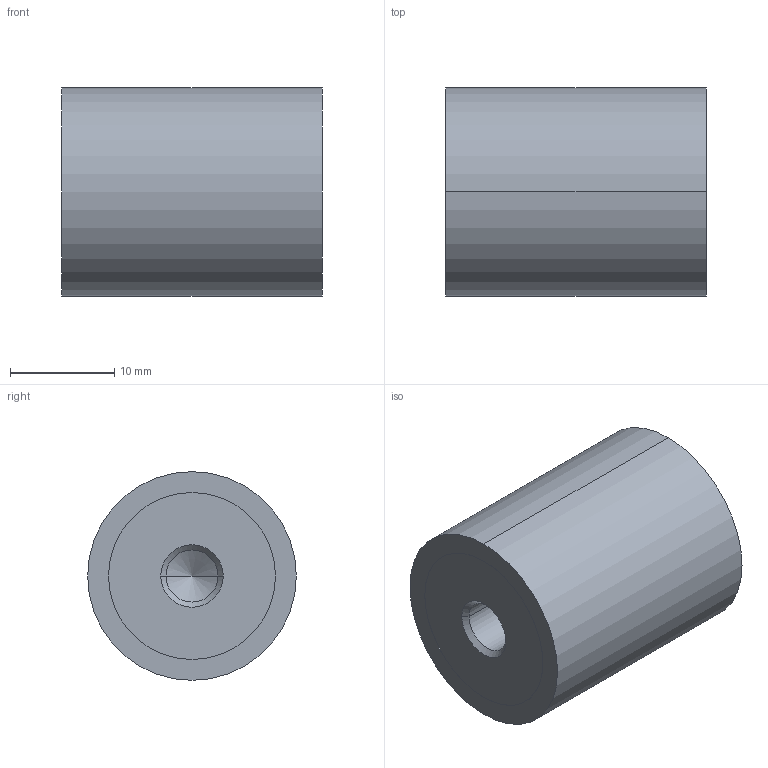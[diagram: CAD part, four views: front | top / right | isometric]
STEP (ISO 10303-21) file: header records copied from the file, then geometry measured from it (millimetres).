
FILE_DESCRIPTION (( 'STEP AP214' ), '1' );
FILE_NAME ('451-20-25-M6-EE-40.step', '2020-03-05T09:11:08', ( '' ), ( '' ), 'SwSTEP 2.0', 'SolidWorks 2019', '' );
FILE_SCHEMA (( 'AUTOMOTIVE_DESIGN' ));
Length unit declared in the file: millimetre
Products named in the file (1): 451-20-25-M6-EE-40
Bounding box: 25 x 20 x 20 mm (x, y, z)
Volume: 7591.1 mm3; surface area: 2386.5 mm2
Topology: 1 solids, 1 shells, 22 faces, 46 edges, 26 vertices
Faces by surface type: cylinder 10, cone 8, plane 4
Entity records: 684 total; most frequent: DIRECTION 112, CARTESIAN_POINT 91, ORIENTED_EDGE 84, AXIS2_PLACEMENT_3D 47, EDGE_CURVE 42, VERTEX_POINT 26, EDGE_LOOP 26, CIRCLE 24
